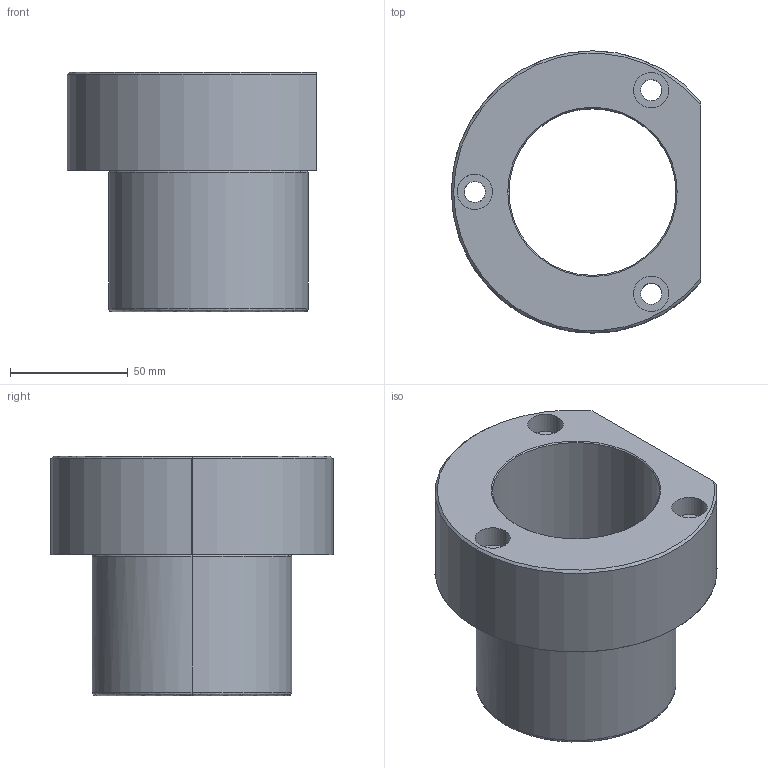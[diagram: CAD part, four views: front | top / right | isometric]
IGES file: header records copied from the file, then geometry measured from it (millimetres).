
Start section: START RECORD GO HERE.
Global section: file name: 737-63.igs; native system: DASSAULT SYSTEMES CATIA V5 R20 - www.3ds.com; preprocessor: CATIA Version 5 Release 20 ; author: Utente; organization: NB04-ASUS; date: 20210117.175836; units: millimetre
Bounding box: 106 x 120 x 102 mm (x, y, z)
Surface area: 71187.5 mm2 (no closed solid volume)
Topology: 0 solids, 0 shells, 37 faces, 164 edges, 164 vertices
Faces by surface type: revolution 30, plane 7
